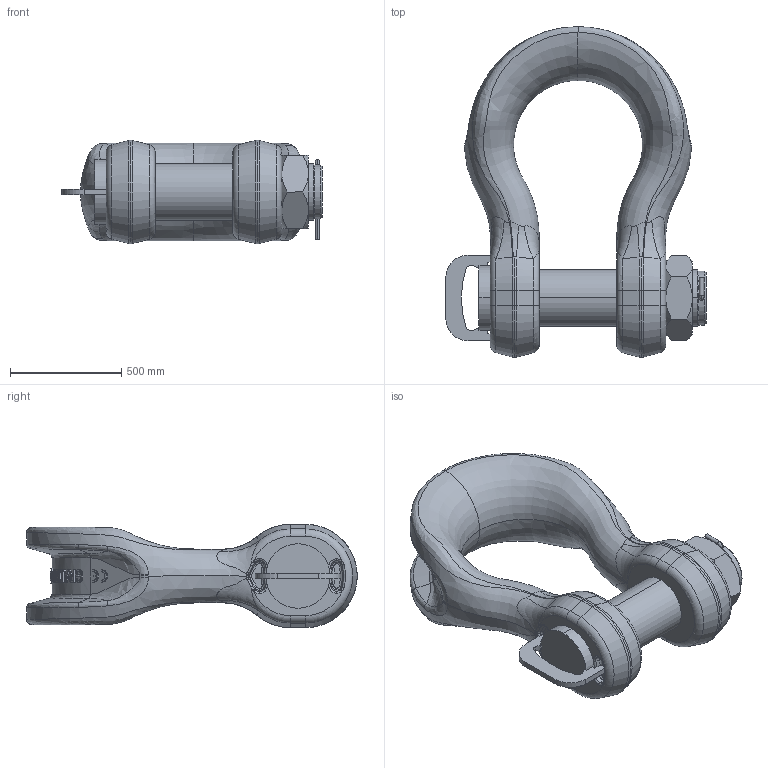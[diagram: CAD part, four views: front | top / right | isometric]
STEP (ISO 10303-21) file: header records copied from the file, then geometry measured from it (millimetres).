
FILE_DESCRIPTION(('STEP AP214'),'1');
FILE_NAME('slgpf0900.stp','2017-07-03T06:31:10',('TraceParts'),('TraceParts S.A.'),'Spatial InterOp 3D',' ',' ');
FILE_SCHEMA(('automotive_design'));
Length unit declared in the file: millimetre
Products named in the file (5): slgpf0900_1; slgpf0900_2; slgpf0900_3; slgpf0900_4; slgpf0900_5
Bounding box: 1172 x 1488 x 466 mm (x, y, z)
Volume: 230245487.9 mm3; surface area: 5103434.1 mm2
Topology: 5 solids, 5 shells, 598 faces, 1509 edges, 949 vertices
Faces by surface type: bspline 217, plane 170, cylinder 79, torus 72, cone 60
Entity records: 140075 total; most frequent: CARTESIAN_POINT 122345, ORIENTED_EDGE 3018, DIRECTION 2091, EDGE_CURVE 1509, VERTEX_POINT 949, AXIS2_PLACEMENT_3D 777, EDGE_LOOP 634, PRESENTATION_STYLE_ASSIGNMENT 608
